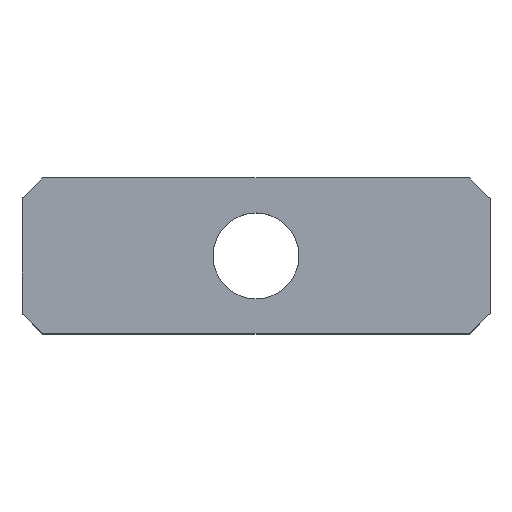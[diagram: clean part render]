
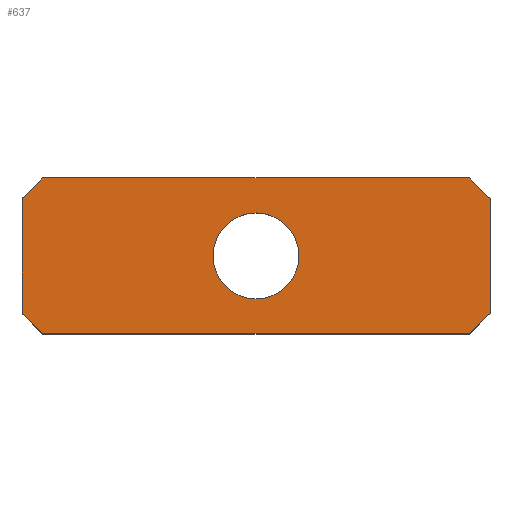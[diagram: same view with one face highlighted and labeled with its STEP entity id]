
A CAD part, top view. The second image highlights one B-rep face of the part: STEP entity #637.
In plain terms, the highlighted planar face has unit normal (0, 0, 1).
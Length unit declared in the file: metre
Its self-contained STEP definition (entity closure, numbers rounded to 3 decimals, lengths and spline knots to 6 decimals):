
#16=PLANE('',#698);
#53=LINE('',#999,#117);
#63=LINE('',#1018,#127);
#66=LINE('',#1024,#130);
#67=LINE('',#1026,#131);
#68=LINE('',#1028,#132);
#69=LINE('',#1030,#133);
#70=LINE('',#1031,#134);
#71=LINE('',#1033,#135);
#117=VECTOR('',#794,1.);
#127=VECTOR('',#810,1.);
#130=VECTOR('',#815,1.);
#131=VECTOR('',#816,1.);
#132=VECTOR('',#817,1.);
#133=VECTOR('',#818,1.);
#134=VECTOR('',#819,1.);
#135=VECTOR('',#820,1.);
#215=ORIENTED_EDGE('',*,*,#400,.F.);
#216=ORIENTED_EDGE('',*,*,#386,.F.);
#217=ORIENTED_EDGE('',*,*,#401,.T.);
#218=ORIENTED_EDGE('',*,*,#402,.F.);
#219=ORIENTED_EDGE('',*,*,#403,.T.);
#220=ORIENTED_EDGE('',*,*,#397,.T.);
#221=ORIENTED_EDGE('',*,*,#404,.F.);
#222=ORIENTED_EDGE('',*,*,#405,.T.);
#223=ORIENTED_EDGE('',*,*,#369,.F.);
#224=ORIENTED_EDGE('',*,*,#406,.F.);
#369=EDGE_CURVE('',#465,#466,#524,.F.);
#386=EDGE_CURVE('',#481,#482,#53,.T.);
#397=EDGE_CURVE('',#488,#489,#63,.T.);
#400=EDGE_CURVE('',#482,#490,#66,.F.);
#401=EDGE_CURVE('',#481,#491,#67,.F.);
#402=EDGE_CURVE('',#492,#491,#68,.T.);
#403=EDGE_CURVE('',#492,#488,#69,.T.);
#404=EDGE_CURVE('',#493,#489,#70,.T.);
#405=EDGE_CURVE('',#493,#490,#71,.T.);
#406=EDGE_CURVE('',#466,#465,#532,.F.);
#465=VERTEX_POINT('',#963);
#466=VERTEX_POINT('',#964);
#481=VERTEX_POINT('',#998);
#482=VERTEX_POINT('',#1000);
#488=VERTEX_POINT('',#1019);
#489=VERTEX_POINT('',#1020);
#490=VERTEX_POINT('',#1025);
#491=VERTEX_POINT('',#1027);
#492=VERTEX_POINT('',#1029);
#493=VERTEX_POINT('',#1032);
#524=CIRCLE('',#684,0.0105);
#532=CIRCLE('',#699,0.0105);
#556=EDGE_LOOP('',(#215,#216,#217,#218,#219,#220,#221,#222));
#557=EDGE_LOOP('',(#223,#224));
#592=FACE_BOUND('',#556,.T.);
#593=FACE_BOUND('',#557,.T.);
#637=ADVANCED_FACE('',(#592,#593),#16,.F.);
#684=AXIS2_PLACEMENT_3D('',#962,#763,#764);
#698=AXIS2_PLACEMENT_3D('',#1023,#813,#814);
#699=AXIS2_PLACEMENT_3D('',#1034,#821,#822);
#763=DIRECTION('',(0.,0.,-1.));
#764=DIRECTION('',(-1.,0.,0.));
#794=DIRECTION('',(-1.,0.,0.));
#810=DIRECTION('',(-1.,0.,0.));
#813=DIRECTION('',(0.,0.,-1.));
#814=DIRECTION('',(-1.,0.,0.));
#815=DIRECTION('',(0.707,-0.707,0.));
#816=DIRECTION('',(-0.707,-0.707,0.));
#817=DIRECTION('',(0.,-1.,0.));
#818=DIRECTION('',(-0.707,0.707,0.));
#819=DIRECTION('',(0.707,0.707,0.));
#820=DIRECTION('',(0.,-1.,0.));
#821=DIRECTION('',(0.,0.,-1.));
#822=DIRECTION('',(-1.,0.,0.));
#962=CARTESIAN_POINT('',(0.,0.,0.051435));
#963=CARTESIAN_POINT('',(-0.0105,0.,0.051435));
#964=CARTESIAN_POINT('',(0.0105,0.,0.051435));
#998=CARTESIAN_POINT('',(0.05207,-0.01905,0.051435));
#999=CARTESIAN_POINT('',(0.0127,-0.01905,0.051435));
#1000=CARTESIAN_POINT('',(-0.05207,-0.01905,0.051435));
#1018=CARTESIAN_POINT('',(0.0127,0.01905,0.051435));
#1019=CARTESIAN_POINT('',(0.05207,0.01905,0.051435));
#1020=CARTESIAN_POINT('',(-0.05207,0.01905,0.051435));
#1023=CARTESIAN_POINT('',(0.0127,0.,0.051435));
#1024=CARTESIAN_POINT('',(-0.05207,-0.01905,0.051435));
#1025=CARTESIAN_POINT('',(-0.05715,-0.01397,0.051435));
#1026=CARTESIAN_POINT('',(0.05207,-0.01905,0.051435));
#1027=CARTESIAN_POINT('',(0.05715,-0.01397,0.051435));
#1028=CARTESIAN_POINT('',(0.05715,0.,0.051435));
#1029=CARTESIAN_POINT('',(0.05715,0.01397,0.051435));
#1030=CARTESIAN_POINT('',(0.05715,0.01397,0.051435));
#1031=CARTESIAN_POINT('',(-0.05715,0.01397,0.051435));
#1032=CARTESIAN_POINT('',(-0.05715,0.01397,0.051435));
#1033=CARTESIAN_POINT('',(-0.05715,0.,0.051435));
#1034=CARTESIAN_POINT('',(0.,0.,0.051435));
